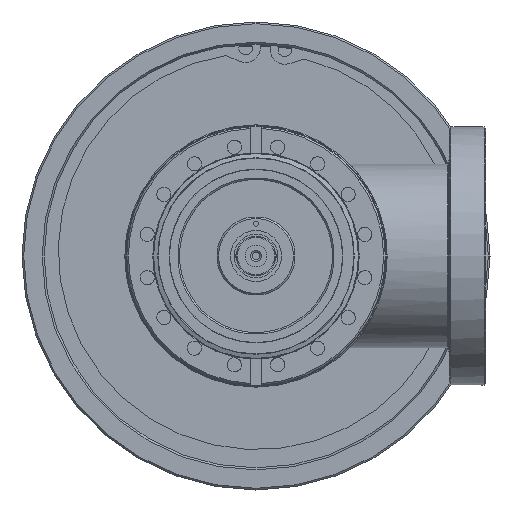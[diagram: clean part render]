
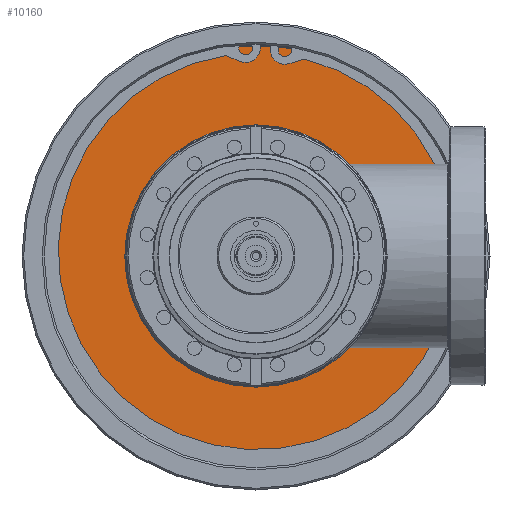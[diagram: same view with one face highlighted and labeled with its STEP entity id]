
A CAD part, left-side view. The second image highlights one B-rep face of the part: STEP entity #10160.
In plain terms, the highlighted planar face has unit normal (-1, 0, 0) as drawn and (0, -1, 0) by its records, which use the part's own axes.
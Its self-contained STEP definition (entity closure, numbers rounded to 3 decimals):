
#9163=FACE_BOUND('',#12387,.T.);
#9164=FACE_BOUND('',#12388,.T.);
#9165=FACE_BOUND('',#12389,.T.);
#9166=FACE_BOUND('',#12390,.T.);
#9167=FACE_BOUND('',#12391,.T.);
#9168=FACE_BOUND('',#12392,.T.);
#10160=ADVANCED_FACE('',(#9163,#9164,#9165,#9166,#9167,#9168),#11071,.T.);
#11071=PLANE('',#23049);
#12387=EDGE_LOOP('',(#14216));
#12388=EDGE_LOOP('',(#14217));
#12389=EDGE_LOOP('',(#14218));
#12390=EDGE_LOOP('',(#14219));
#12391=EDGE_LOOP('',(#14220));
#12392=EDGE_LOOP('',(#14221));
#14216=ORIENTED_EDGE('',*,*,#20077,.T.);
#14217=ORIENTED_EDGE('',*,*,#20078,.T.);
#14218=ORIENTED_EDGE('',*,*,#20079,.T.);
#14219=ORIENTED_EDGE('',*,*,#20080,.F.);
#14220=ORIENTED_EDGE('',*,*,#20081,.T.);
#14221=ORIENTED_EDGE('',*,*,#20082,.T.);
#18314=VERTEX_POINT('',#29741);
#18315=VERTEX_POINT('',#29743);
#18316=VERTEX_POINT('',#29745);
#18317=VERTEX_POINT('',#29747);
#18318=VERTEX_POINT('',#29749);
#18319=VERTEX_POINT('',#29751);
#20077=EDGE_CURVE('',#18314,#18314,#22168,.T.);
#20078=EDGE_CURVE('',#18315,#18315,#22169,.T.);
#20079=EDGE_CURVE('',#18316,#18316,#22170,.T.);
#20080=EDGE_CURVE('',#18317,#18317,#22171,.T.);
#20081=EDGE_CURVE('',#18318,#18318,#22172,.T.);
#20082=EDGE_CURVE('',#18319,#18319,#22173,.T.);
#22168=CIRCLE('',#23043,5.975);
#22169=CIRCLE('',#23044,5.975);
#22170=CIRCLE('',#23045,123.85);
#22171=CIRCLE('',#23046,17.15);
#22172=CIRCLE('',#23047,5.975);
#22173=CIRCLE('',#23048,5.975);
#23043=AXIS2_PLACEMENT_3D('',#29740,#25177,#25178);
#23044=AXIS2_PLACEMENT_3D('',#29742,#25179,#25180);
#23045=AXIS2_PLACEMENT_3D('',#29744,#25181,#25182);
#23046=AXIS2_PLACEMENT_3D('',#29746,#25183,#25184);
#23047=AXIS2_PLACEMENT_3D('',#29748,#25185,#25186);
#23048=AXIS2_PLACEMENT_3D('',#29750,#25187,#25188);
#23049=AXIS2_PLACEMENT_3D('',#29752,#25189,#25190);
#25177=DIRECTION('',(0.,1.,0.));
#25178=DIRECTION('',(1.,0.,0.));
#25179=DIRECTION('',(0.,1.,0.));
#25180=DIRECTION('',(-1.,0.,0.));
#25181=DIRECTION('',(0.,-1.,0.));
#25182=DIRECTION('',(0.,0.,-1.));
#25183=DIRECTION('',(0.,-1.,0.));
#25184=DIRECTION('',(0.,0.,-1.));
#25185=DIRECTION('',(0.,1.,0.));
#25186=DIRECTION('',(0.,0.,-1.));
#25187=DIRECTION('',(0.,1.,0.));
#25188=DIRECTION('',(0.,0.,1.));
#25189=DIRECTION('',(0.,-1.,0.));
#25190=DIRECTION('',(0.,0.,-1.));
#29740=CARTESIAN_POINT('',(0.,0.,48.));
#29741=CARTESIAN_POINT('',(5.975,0.,48.));
#29742=CARTESIAN_POINT('',(0.,0.,-48.));
#29743=CARTESIAN_POINT('',(-5.975,0.,-48.));
#29744=CARTESIAN_POINT('',(0.,0.,0.));
#29745=CARTESIAN_POINT('',(0.,0.,-123.85));
#29746=CARTESIAN_POINT('',(0.,0.,0.));
#29747=CARTESIAN_POINT('',(0.,0.,-17.15));
#29748=CARTESIAN_POINT('',(48.,0.,0.));
#29749=CARTESIAN_POINT('',(48.,0.,-5.975));
#29750=CARTESIAN_POINT('',(-48.,0.,0.));
#29751=CARTESIAN_POINT('',(-48.,0.,5.975));
#29752=CARTESIAN_POINT('',(17.15,0.,0.));
